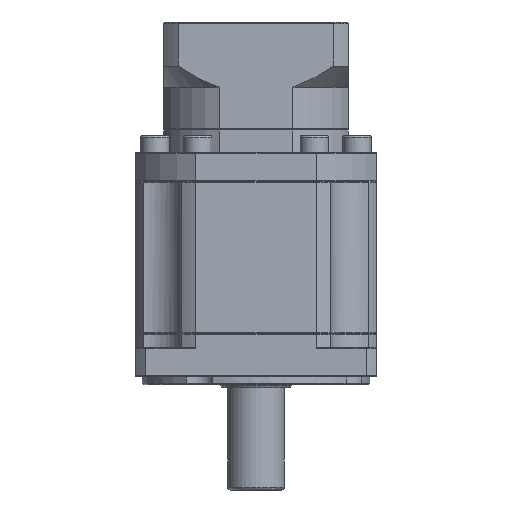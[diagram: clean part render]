
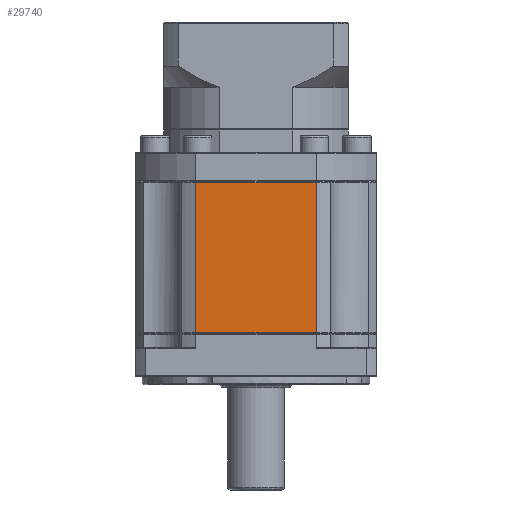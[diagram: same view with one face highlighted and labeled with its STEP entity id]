
A CAD part, front view. The second image highlights one B-rep face of the part: STEP entity #29740.
In plain terms, the highlighted planar face has unit normal (0, -1, 0).
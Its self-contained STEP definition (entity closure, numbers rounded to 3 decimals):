
#5237 = VECTOR ( 'NONE', #96673, 1000. ) ;
#9649 = VERTEX_POINT ( 'NONE', #93147 ) ;
#12153 = EDGE_CURVE ( 'NONE', #9649, #44582, #117608, .T. ) ;
#12818 = EDGE_CURVE ( 'NONE', #20917, #9649, #50108, .T. ) ;
#13643 = DIRECTION ( 'NONE',  ( 0., 0., 1. ) ) ;
#13771 = CARTESIAN_POINT ( 'NONE',  ( -48.195, -49.013, 142.402 ) ) ;
#14086 = FACE_OUTER_BOUND ( 'NONE', #110773, .T. ) ;
#16523 = LINE ( 'NONE', #54840, #78949 ) ;
#20510 = DIRECTION ( 'NONE',  ( 0., 0., 1. ) ) ;
#20917 = VERTEX_POINT ( 'NONE', #63370 ) ;
#29740 = ADVANCED_FACE ( 'NONE', ( #14086 ), #112268, .F. ) ;
#30426 = ORIENTED_EDGE ( 'NONE', *, *, #99202, .F. ) ;
#39502 = CARTESIAN_POINT ( 'NONE',  ( -26.982, -49.013, 142.402 ) ) ;
#41051 = EDGE_CURVE ( 'NONE', #44582, #127051, #16523, .T. ) ;
#42133 = DIRECTION ( 'NONE',  ( 1., 0., 0. ) ) ;
#44582 = VERTEX_POINT ( 'NONE', #90340 ) ;
#48814 = VECTOR ( 'NONE', #132600, 1000. ) ;
#50108 = LINE ( 'NONE', #65306, #5237 ) ;
#50555 = CARTESIAN_POINT ( 'NONE',  ( -5.769, -49.013, 142.652 ) ) ;
#54840 = CARTESIAN_POINT ( 'NONE',  ( -48.195, -49.013, 142.652 ) ) ;
#63224 = ORIENTED_EDGE ( 'NONE', *, *, #41051, .F. ) ;
#63370 = CARTESIAN_POINT ( 'NONE',  ( -5.769, -49.013, 142.402 ) ) ;
#65306 = CARTESIAN_POINT ( 'NONE',  ( -5.769, -49.013, 142.652 ) ) ;
#67684 = AXIS2_PLACEMENT_3D ( 'NONE', #50555, #81848, #20510 ) ;
#78636 = VECTOR ( 'NONE', #42133, 1000. ) ;
#78949 = VECTOR ( 'NONE', #13643, 1000. ) ;
#81848 = DIRECTION ( 'NONE',  ( 0., 1., 0. ) ) ;
#82542 = ORIENTED_EDGE ( 'NONE', *, *, #12818, .F. ) ;
#88345 = LINE ( 'NONE', #39502, #78636 ) ;
#90340 = CARTESIAN_POINT ( 'NONE',  ( -48.195, -49.013, 89.402 ) ) ;
#91003 = CARTESIAN_POINT ( 'NONE',  ( -5.769, -49.013, 89.402 ) ) ;
#93147 = CARTESIAN_POINT ( 'NONE',  ( -5.769, -49.013, 89.402 ) ) ;
#96673 = DIRECTION ( 'NONE',  ( 0., 0., -1. ) ) ;
#99202 = EDGE_CURVE ( 'NONE', #127051, #20917, #88345, .T. ) ;
#110773 = EDGE_LOOP ( 'NONE', ( #126391, #82542, #30426, #63224 ) ) ;
#112268 = PLANE ( 'NONE',  #67684 ) ;
#117608 = LINE ( 'NONE', #91003, #48814 ) ;
#126391 = ORIENTED_EDGE ( 'NONE', *, *, #12153, .F. ) ;
#127051 = VERTEX_POINT ( 'NONE', #13771 ) ;
#132600 = DIRECTION ( 'NONE',  ( -1., 0., 0. ) ) ;
